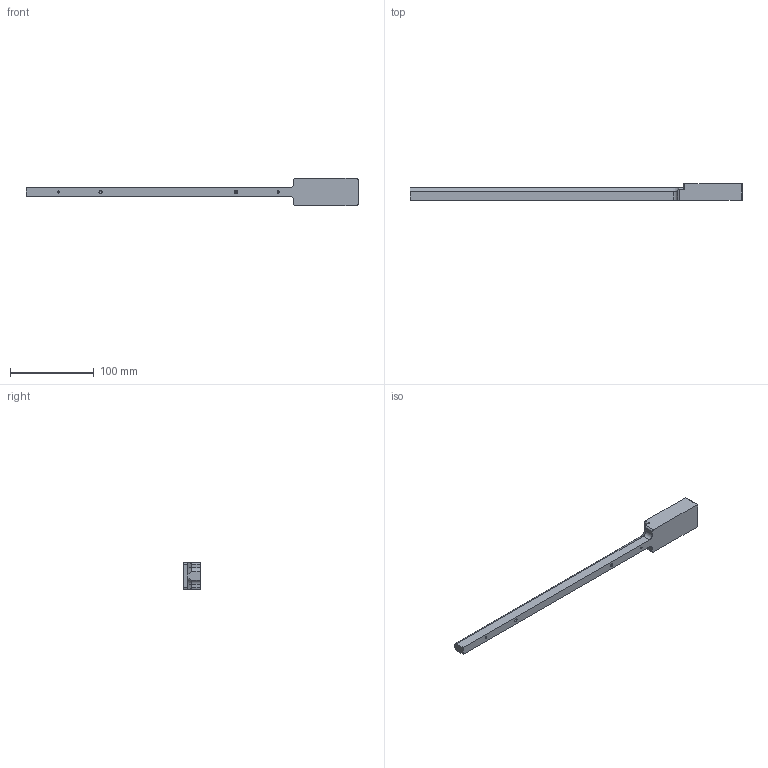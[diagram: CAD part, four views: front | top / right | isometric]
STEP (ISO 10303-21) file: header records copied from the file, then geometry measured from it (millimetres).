
FILE_DESCRIPTION (( 'STEP AP214' ), '1' );
FILE_NAME ('LL-300.STEP', '2026-02-06T15:51:46', ( '' ), ( '' ), 'SwSTEP 2.0', 'SolidWorks 2022', '' );
FILE_SCHEMA (( 'AUTOMOTIVE_DESIGN' ));
Length unit declared in the file: millimetre
Products named in the file (1): LL-300
Bounding box: 395.7 x 20 x 32.5 mm (x, y, z)
Volume: 91198.3 mm3; surface area: 26293.9 mm2
Topology: 1 solids, 1 shells, 174 faces, 450 edges, 294 vertices
Faces by surface type: plane 151, cylinder 15, cone 8
Full cylindrical faces by diameter (mm): 2.5 x2, 3 x2
Entity records: 6291 total; most frequent: CARTESIAN_POINT 915, ORIENTED_EDGE 868, DIRECTION 810, EDGE_CURVE 434, VECTOR 396, LINE 396, VERTEX_POINT 288, AXIS2_PLACEMENT_3D 207
